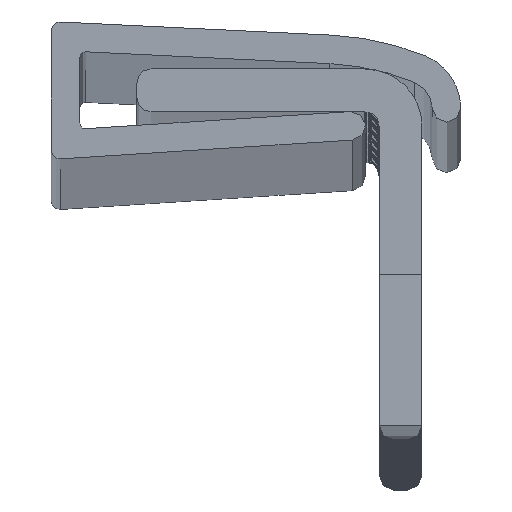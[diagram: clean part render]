
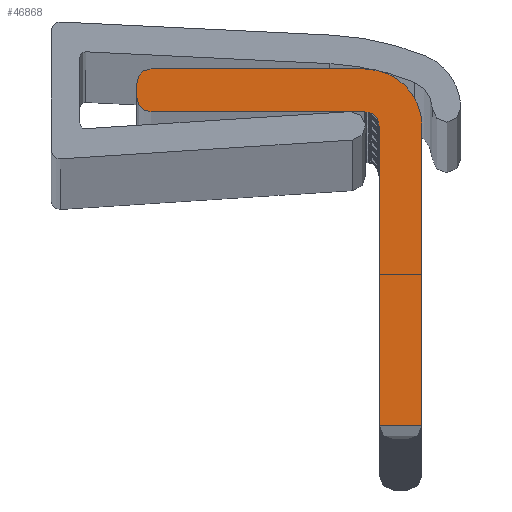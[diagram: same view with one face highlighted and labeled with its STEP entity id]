
A CAD part, top view. The second image highlights one B-rep face of the part: STEP entity #46868.
In plain terms, the highlighted planar face has unit normal (0, 0, 1).
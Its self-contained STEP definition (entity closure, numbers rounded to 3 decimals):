
#1936 = CARTESIAN_POINT ( 'NONE',  ( 3.886, 4.75, 1008.8 ) ) ;
#1937 = CARTESIAN_POINT ( 'NONE',  ( -3.614, 4.75, 1008.8 ) ) ;
#1938 = DIRECTION ( 'NONE',  ( 1., 0., 0. ) ) ;
#1939 = VECTOR ( 'NONE', #1938, 1000. ) ;
#1940 = CARTESIAN_POINT ( 'NONE',  ( -4.114, 4.75, 1008.8 ) ) ;
#1941 = LINE ( 'NONE', #1940, #1939 ) ;
#2228 = DIRECTION ( 'NONE',  ( 1., 0., 0. ) ) ;
#2229 = DIRECTION ( 'NONE',  ( 0., 0., -1. ) ) ;
#2230 = CARTESIAN_POINT ( 'NONE',  ( 3.886, 4.25, 1008.8 ) ) ;
#2231 = AXIS2_PLACEMENT_3D ( 'NONE', #2230, #2229, #2228 ) ;
#2232 = CIRCLE ( 'NONE', #2231, 0.5 ) ;
#2238 = CARTESIAN_POINT ( 'NONE',  ( 4.386, 4.25, 1008.8 ) ) ;
#2352 = DIRECTION ( 'NONE',  ( 0., -1., 0. ) ) ;
#2353 = VECTOR ( 'NONE', #2352, 1000. ) ;
#2354 = CARTESIAN_POINT ( 'NONE',  ( 4.386, 4.25, 1008.8 ) ) ;
#2355 = LINE ( 'NONE', #2354, #2353 ) ;
#2450 = DIRECTION ( 'NONE',  ( 0., 1., 0. ) ) ;
#2451 = VECTOR ( 'NONE', #2450, 1000. ) ;
#2452 = CARTESIAN_POINT ( 'NONE',  ( 5.886, -6.75, 1008.8 ) ) ;
#2453 = LINE ( 'NONE', #2452, #2451 ) ;
#2455 = CARTESIAN_POINT ( 'NONE',  ( 5.886, 4.25, 1008.8 ) ) ;
#2599 = DIRECTION ( 'NONE',  ( 1., 0., 0. ) ) ;
#2600 = DIRECTION ( 'NONE',  ( 0., 0., 1. ) ) ;
#2601 = CARTESIAN_POINT ( 'NONE',  ( 3.886, 4.25, 1008.8 ) ) ;
#2602 = AXIS2_PLACEMENT_3D ( 'NONE', #2601, #2600, #2599 ) ;
#2603 = CIRCLE ( 'NONE', #2602, 2. ) ;
#2608 = CARTESIAN_POINT ( 'NONE',  ( 3.886, 6.25, 1008.8 ) ) ;
#2719 = CARTESIAN_POINT ( 'NONE',  ( 3.886, 6.25, 1008.8 ) ) ;
#2720 = LINE ( 'NONE', #2719, #2763 ) ;
#2721 = CARTESIAN_POINT ( 'NONE',  ( -3.614, 6.25, 1008.8 ) ) ;
#2762 = DIRECTION ( 'NONE',  ( -1., 0., 0. ) ) ;
#2763 = VECTOR ( 'NONE', #2762, 1000. ) ;
#3359 = DIRECTION ( 'NONE',  ( 1., 0., 0. ) ) ;
#3360 = DIRECTION ( 'NONE',  ( 0., 0., 1. ) ) ;
#3361 = CARTESIAN_POINT ( 'NONE',  ( -3.614, 5.25, 1008.8 ) ) ;
#3362 = AXIS2_PLACEMENT_3D ( 'NONE', #3361, #3360, #3359 ) ;
#3363 = CIRCLE ( 'NONE', #3362, 0.5 ) ;
#3365 = DIRECTION ( 'NONE',  ( 1., 0., 0. ) ) ;
#3366 = DIRECTION ( 'NONE',  ( 0., 0., 1. ) ) ;
#3367 = CARTESIAN_POINT ( 'NONE',  ( -3.614, 5.75, 1008.8 ) ) ;
#3368 = AXIS2_PLACEMENT_3D ( 'NONE', #3367, #3366, #3365 ) ;
#3369 = CIRCLE ( 'NONE', #3368, 0.5 ) ;
#3386 = FACE_OUTER_BOUND ( 'NONE', #46869, .T. ) ;
#3392 = CARTESIAN_POINT ( 'NONE',  ( -4.114, 5.75, 1008.8 ) ) ;
#3393 = DIRECTION ( 'NONE',  ( 0., -1., 0. ) ) ;
#3394 = VECTOR ( 'NONE', #3393, 1000. ) ;
#3395 = CARTESIAN_POINT ( 'NONE',  ( -4.114, 5.18, 1008.8 ) ) ;
#3396 = LINE ( 'NONE', #3395, #3394 ) ;
#3423 = DIRECTION ( 'NONE',  ( 1., 0., 0. ) ) ;
#3424 = VECTOR ( 'NONE', #3423, 1000. ) ;
#3425 = CARTESIAN_POINT ( 'NONE',  ( 3.886, -6.25, 1008.8 ) ) ;
#3426 = LINE ( 'NONE', #3425, #3424 ) ;
#3427 = DIRECTION ( 'NONE',  ( 1., 0., 0. ) ) ;
#3428 = DIRECTION ( 'NONE',  ( 0., 0., 1. ) ) ;
#3429 = CARTESIAN_POINT ( 'NONE',  ( 3.886, 4.25, 1008.8 ) ) ;
#3430 = AXIS2_PLACEMENT_3D ( 'NONE', #3429, #3428, #3427 ) ;
#3431 = PLANE ( 'NONE',  #3430 ) ;
#3437 = CARTESIAN_POINT ( 'NONE',  ( -4.114, 5.25, 1008.8 ) ) ;
#30621 = CARTESIAN_POINT ( 'NONE',  ( 4.386, -6.25, 1008.8 ) ) ;
#30773 = CARTESIAN_POINT ( 'NONE',  ( 5.886, -6.25, 1008.8 ) ) ;
#40642 = VERTEX_POINT ( 'NONE', #30621 ) ;
#40657 = VERTEX_POINT ( 'NONE', #30773 ) ;
#46206 = EDGE_CURVE ( 'NONE', #46207, #46208, #1941, .T. ) ;
#46207 = VERTEX_POINT ( 'NONE', #1937 ) ;
#46208 = VERTEX_POINT ( 'NONE', #1936 ) ;
#46386 = VERTEX_POINT ( 'NONE', #2238 ) ;
#46390 = EDGE_CURVE ( 'NONE', #46208, #46386, #2232, .T. ) ;
#46442 = EDGE_CURVE ( 'NONE', #46386, #40642, #2355, .T. ) ;
#46473 = VERTEX_POINT ( 'NONE', #2455 ) ;
#46476 = EDGE_CURVE ( 'NONE', #40657, #46473, #2453, .T. ) ;
#46517 = VERTEX_POINT ( 'NONE', #2608 ) ;
#46521 = EDGE_CURVE ( 'NONE', #46473, #46517, #2603, .T. ) ;
#46566 = VERTEX_POINT ( 'NONE', #2721 ) ;
#46570 = EDGE_CURVE ( 'NONE', #46517, #46566, #2720, .T. ) ;
#46855 = EDGE_CURVE ( 'NONE', #46566, #46865, #3369, .T. ) ;
#46856 = ORIENTED_EDGE ( 'NONE', *, *, #46864, .T. ) ;
#46857 = ORIENTED_EDGE ( 'NONE', *, *, #46858, .T. ) ;
#46858 = EDGE_CURVE ( 'NONE', #46888, #46207, #3363, .T. ) ;
#46864 = EDGE_CURVE ( 'NONE', #46865, #46888, #3396, .T. ) ;
#46865 = VERTEX_POINT ( 'NONE', #3392 ) ;
#46868 = ADVANCED_FACE ( 'NONE', ( #3386 ), #3431, .T. ) ;
#46869 = EDGE_LOOP ( 'NONE', ( #46870, #46871, #46872, #46873, #46875, #46936, #46937, #46938, #46856, #46857 ) ) ;
#46870 = ORIENTED_EDGE ( 'NONE', *, *, #46206, .T. ) ;
#46871 = ORIENTED_EDGE ( 'NONE', *, *, #46390, .T. ) ;
#46872 = ORIENTED_EDGE ( 'NONE', *, *, #46442, .T. ) ;
#46873 = ORIENTED_EDGE ( 'NONE', *, *, #46874, .T. ) ;
#46874 = EDGE_CURVE ( 'NONE', #40642, #40657, #3426, .T. ) ;
#46875 = ORIENTED_EDGE ( 'NONE', *, *, #46476, .T. ) ;
#46888 = VERTEX_POINT ( 'NONE', #3437 ) ;
#46936 = ORIENTED_EDGE ( 'NONE', *, *, #46521, .T. ) ;
#46937 = ORIENTED_EDGE ( 'NONE', *, *, #46570, .T. ) ;
#46938 = ORIENTED_EDGE ( 'NONE', *, *, #46855, .T. ) ;
